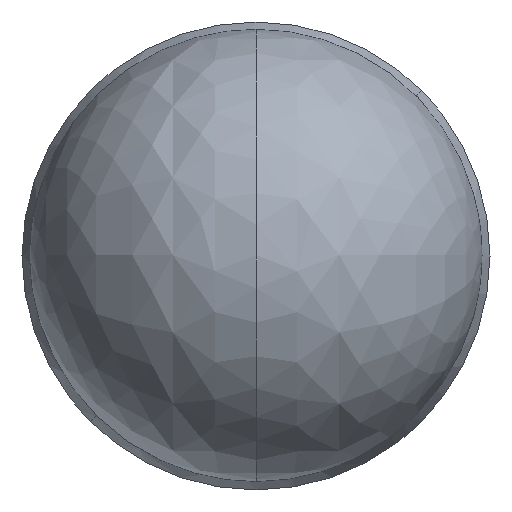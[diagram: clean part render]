
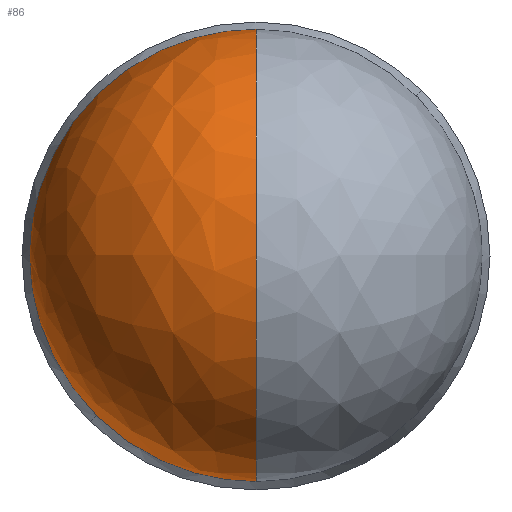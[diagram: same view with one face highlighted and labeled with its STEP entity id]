
A CAD part, top view. The second image highlights one B-rep face of the part: STEP entity #86.
In plain terms, the highlighted free-form (B-spline) face has degree [2, 2] with [5, 5] control points.
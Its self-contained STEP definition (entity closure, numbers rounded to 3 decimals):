
#86=ADVANCED_FACE('',(#221),#1940,.T.);
#221=FACE_OUTER_BOUND('',#358,.T.);
#358=EDGE_LOOP('',(#629,#630,#631,#632));
#629=ORIENTED_EDGE('',*,*,#1154,.T.);
#630=ORIENTED_EDGE('',*,*,#1149,.F.);
#631=ORIENTED_EDGE('',*,*,#1162,.F.);
#632=ORIENTED_EDGE('',*,*,#1163,.F.);
#1149=EDGE_CURVE('',#1736,#1737,#1417,.T.);
#1154=EDGE_CURVE('',#1738,#1737,#1422,.T.);
#1162=EDGE_CURVE('',#1741,#1736,#1430,.T.);
#1163=EDGE_CURVE('',#1738,#1741,#1431,.T.);
#1417=(
BOUNDED_CURVE()
B_SPLINE_CURVE(2,(#2944,#2945,#2946),.UNSPECIFIED.,.F.,.F.)
B_SPLINE_CURVE_WITH_KNOTS((3,3),(0.,78.54),.UNSPECIFIED.)
CURVE()
GEOMETRIC_REPRESENTATION_ITEM()
RATIONAL_B_SPLINE_CURVE((1.,0.707,1.))
REPRESENTATION_ITEM('')
);
#1422=(
BOUNDED_CURVE()
B_SPLINE_CURVE(2,(#2963,#2964,#2965),.UNSPECIFIED.,.F.,.F.)
B_SPLINE_CURVE_WITH_KNOTS((3,3),(0.,78.54),.UNSPECIFIED.)
CURVE()
GEOMETRIC_REPRESENTATION_ITEM()
RATIONAL_B_SPLINE_CURVE((1.,0.707,1.))
REPRESENTATION_ITEM('')
);
#1430=(
BOUNDED_CURVE()
B_SPLINE_CURVE(2,(#2989,#2990,#2991),.UNSPECIFIED.,.F.,.F.)
B_SPLINE_CURVE_WITH_KNOTS((3,3),(56.592,135.132),
 .UNSPECIFIED.)
CURVE()
GEOMETRIC_REPRESENTATION_ITEM()
RATIONAL_B_SPLINE_CURVE((1.,0.707,1.))
REPRESENTATION_ITEM('')
);
#1431=(
BOUNDED_CURVE()
B_SPLINE_CURVE(2,(#2992,#2993,#2994),.UNSPECIFIED.,.F.,.F.)
B_SPLINE_CURVE_WITH_KNOTS((3,3),(0.,78.54),.UNSPECIFIED.)
CURVE()
GEOMETRIC_REPRESENTATION_ITEM()
RATIONAL_B_SPLINE_CURVE((1.,0.707,1.))
REPRESENTATION_ITEM('')
);
#1736=VERTEX_POINT('',#2908);
#1737=VERTEX_POINT('',#2909);
#1738=VERTEX_POINT('',#2910);
#1741=VERTEX_POINT('',#2913);
#1940=(
BOUNDED_SURFACE()
B_SPLINE_SURFACE(2,2,((#2846,#2847,#2848,#2849,#2850),(#2851,#2852,#2853,
#2854,#2855),(#2856,#2857,#2858,#2859,#2860),(#2861,#2862,#2863,#2864,#2865),
(#2866,#2867,#2868,#2869,#2870)),.UNSPECIFIED.,.F.,.F.,.F.)
B_SPLINE_SURFACE_WITH_KNOTS((3,2,3),(3,2,3),(157.08,235.619,
314.159),(0.,78.54,157.08),.UNSPECIFIED.)
GEOMETRIC_REPRESENTATION_ITEM()
RATIONAL_B_SPLINE_SURFACE(((1.,0.707,1.,0.707,1.),
(0.707,0.5,0.707,0.5,0.707),(1.,0.707,
1.,0.707,1.),(0.707,0.5,0.707,0.5,0.707),
(1.,0.707,1.,0.707,1.)))
REPRESENTATION_ITEM('')
SURFACE()
);
#2846=CARTESIAN_POINT('',(-50.,0.,82.06));
#2847=CARTESIAN_POINT('',(-50.,50.,82.06));
#2848=CARTESIAN_POINT('',(0.,50.,82.06));
#2849=CARTESIAN_POINT('',(50.,50.,82.06));
#2850=CARTESIAN_POINT('',(50.,0.,82.06));
#2851=CARTESIAN_POINT('',(-50.,0.,82.06));
#2852=CARTESIAN_POINT('',(-50.,50.,132.06));
#2853=CARTESIAN_POINT('',(0.,50.,132.06));
#2854=CARTESIAN_POINT('',(50.,50.,132.06));
#2855=CARTESIAN_POINT('',(50.,0.,82.06));
#2856=CARTESIAN_POINT('',(-50.,0.,82.06));
#2857=CARTESIAN_POINT('',(-50.,0.,132.06));
#2858=CARTESIAN_POINT('',(0.,0.,132.06));
#2859=CARTESIAN_POINT('',(50.,0.,132.06));
#2860=CARTESIAN_POINT('',(50.,0.,82.06));
#2861=CARTESIAN_POINT('',(-50.,0.,82.06));
#2862=CARTESIAN_POINT('',(-50.,-50.,132.06));
#2863=CARTESIAN_POINT('',(0.,-50.,132.06));
#2864=CARTESIAN_POINT('',(50.,-50.,132.06));
#2865=CARTESIAN_POINT('',(50.,0.,82.06));
#2866=CARTESIAN_POINT('',(-50.,0.,82.06));
#2867=CARTESIAN_POINT('',(-50.,-50.,82.06));
#2868=CARTESIAN_POINT('',(0.,-50.,82.06));
#2869=CARTESIAN_POINT('',(50.,-50.,82.06));
#2870=CARTESIAN_POINT('',(50.,0.,82.06));
#2908=CARTESIAN_POINT('',(0.,0.,132.06));
#2909=CARTESIAN_POINT('',(0.,-50.,82.06));
#2910=CARTESIAN_POINT('',(-50.,0.,82.06));
#2913=CARTESIAN_POINT('',(0.,50.,82.06));
#2944=CARTESIAN_POINT('',(0.,0.,132.06));
#2945=CARTESIAN_POINT('',(0.,-50.,132.06));
#2946=CARTESIAN_POINT('',(0.,-50.,82.06));
#2963=CARTESIAN_POINT('',(-50.,0.,82.06));
#2964=CARTESIAN_POINT('',(-50.,-50.,82.06));
#2965=CARTESIAN_POINT('',(0.,-50.,82.06));
#2989=CARTESIAN_POINT('',(0.,50.,82.06));
#2990=CARTESIAN_POINT('',(0.,50.,132.06));
#2991=CARTESIAN_POINT('',(0.,0.,132.06));
#2992=CARTESIAN_POINT('',(-50.,0.,82.06));
#2993=CARTESIAN_POINT('',(-50.,50.,82.06));
#2994=CARTESIAN_POINT('',(0.,50.,82.06));
